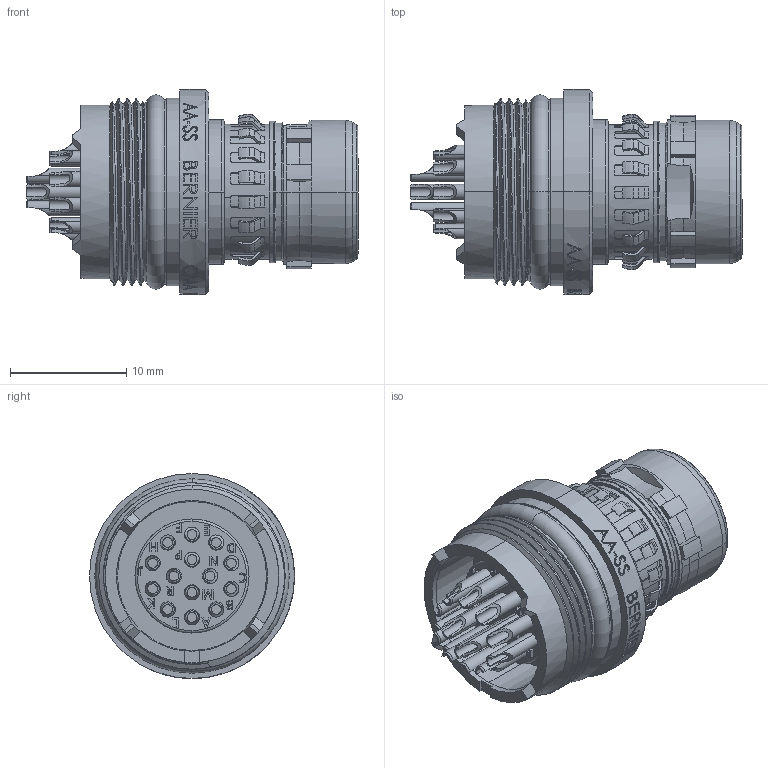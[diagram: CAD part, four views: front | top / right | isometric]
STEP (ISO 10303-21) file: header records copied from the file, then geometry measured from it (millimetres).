
FILE_DESCRIPTION (( 'STEP AP203' ), '1' );
FILE_NAME ('CMA1N14.STEP', '2020-11-30T11:13:43', ( '' ), ( '' ), 'SwSTEP 2.0', 'SolidWorks 2019', '' );
FILE_SCHEMA (( 'CONFIG_CONTROL_DESIGN' ));
Length unit declared in the file: millimetre
Products named in the file (1): CMA1N14
Bounding box: 28.5 x 17.6 x 17.6 mm (x, y, z)
Volume: 3032.6 mm3; surface area: 2773.4 mm2
Topology: 1 solids, 1 shells, 1341 faces, 3621 edges, 2397 vertices
Faces by surface type: plane 643, cylinder 279, bspline 169, torus 135, cone 115
Entity records: 51984 total; most frequent: CARTESIAN_POINT 20077, ORIENTED_EDGE 7242, DIRECTION 5815, EDGE_CURVE 3621, VERTEX_POINT 2397, AXIS2_PLACEMENT_3D 2124, VECTOR 1567, LINE 1567
